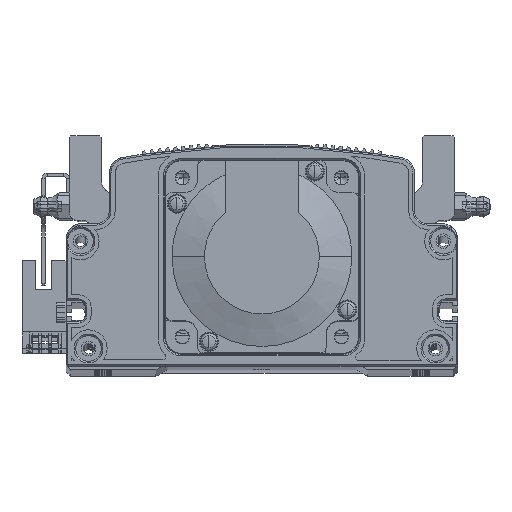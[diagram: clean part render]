
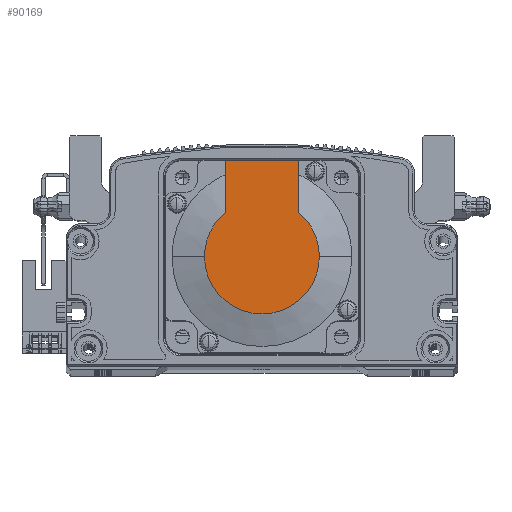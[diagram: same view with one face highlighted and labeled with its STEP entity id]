
A CAD part, top view. The second image highlights one B-rep face of the part: STEP entity #90169.
In plain terms, the highlighted planar face has unit normal (0, 0, 1) as drawn and (-1, 0, 0) by its records, which use the part's own axes.
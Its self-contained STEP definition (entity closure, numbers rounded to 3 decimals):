
#535 = CARTESIAN_POINT ( 'NONE',  ( -118.5, 0., 0. ) ) ;
#6506 = EDGE_CURVE ( 'NONE', #36086, #82748, #66569, .T. ) ;
#6669 = DIRECTION ( 'NONE',  ( -1., 0., 0. ) ) ;
#8432 = LINE ( 'NONE', #67489, #29106 ) ;
#8839 = ORIENTED_EDGE ( 'NONE', *, *, #64449, .F. ) ;
#9079 = CARTESIAN_POINT ( 'NONE',  ( -118.5, -8.941, 0. ) ) ;
#10084 = ORIENTED_EDGE ( 'NONE', *, *, #19612, .T. ) ;
#10475 = CARTESIAN_POINT ( 'NONE',  ( -118.5, 0., 0. ) ) ;
#10772 = DIRECTION ( 'NONE',  ( 0., 0., -1. ) ) ;
#11546 = VECTOR ( 'NONE', #47985, 1000. ) ;
#11878 = CARTESIAN_POINT ( 'NONE',  ( -118.5, 0., 17.881 ) ) ;
#13517 = ORIENTED_EDGE ( 'NONE', *, *, #28532, .T. ) ;
#18252 = ORIENTED_EDGE ( 'NONE', *, *, #6506, .F. ) ;
#18262 = CARTESIAN_POINT ( 'NONE',  ( -118.5, 0., -17.881 ) ) ;
#19612 = EDGE_CURVE ( 'NONE', #53247, #35662, #57351, .T. ) ;
#23748 = DIRECTION ( 'NONE',  ( 0., -1., 0. ) ) ;
#23932 = EDGE_CURVE ( 'NONE', #69134, #53247, #73124, .T. ) ;
#25282 = AXIS2_PLACEMENT_3D ( 'NONE', #535, #59414, #58767 ) ;
#28532 = EDGE_CURVE ( 'NONE', #47103, #69134, #54361, .T. ) ;
#29106 = VECTOR ( 'NONE', #23748, 1000. ) ;
#30680 = CARTESIAN_POINT ( 'NONE',  ( -118.5, 30., -11.45 ) ) ;
#31464 = PLANE ( 'NONE',  #65689 ) ;
#31987 = AXIS2_PLACEMENT_3D ( 'NONE', #10475, #54232, #10772 ) ;
#32667 = ORIENTED_EDGE ( 'NONE', *, *, #23932, .T. ) ;
#32894 = CARTESIAN_POINT ( 'NONE',  ( -118.5, 30., 25. ) ) ;
#35662 = VERTEX_POINT ( 'NONE', #51182 ) ;
#36086 = VERTEX_POINT ( 'NONE', #30680 ) ;
#47103 = VERTEX_POINT ( 'NONE', #73291 ) ;
#47873 = DIRECTION ( 'NONE',  ( 0., 0., 1. ) ) ;
#47985 = DIRECTION ( 'NONE',  ( 0., -1., 0. ) ) ;
#51182 = CARTESIAN_POINT ( 'NONE',  ( -118.5, 13.735, 11.45 ) ) ;
#53198 = EDGE_CURVE ( 'NONE', #36086, #47103, #77829, .T. ) ;
#53247 = VERTEX_POINT ( 'NONE', #11878 ) ;
#53943 = VECTOR ( 'NONE', #47873, 1000. ) ;
#54232 = DIRECTION ( 'NONE',  ( -1., 0., 0. ) ) ;
#54361 = CIRCLE ( 'NONE', #31987, 17.881 ) ;
#57351 = CIRCLE ( 'NONE', #25282, 17.881 ) ;
#58767 = DIRECTION ( 'NONE',  ( 0., 0., -1. ) ) ;
#59414 = DIRECTION ( 'NONE',  ( -1., 0., 0. ) ) ;
#61758 = CARTESIAN_POINT ( 'NONE',  ( -118.5, -8.941, -11.45 ) ) ;
#64449 = EDGE_CURVE ( 'NONE', #82748, #35662, #8432, .T. ) ;
#65689 = AXIS2_PLACEMENT_3D ( 'NONE', #9079, #74943, #82597 ) ;
#66569 = LINE ( 'NONE', #32894, #53943 ) ;
#67489 = CARTESIAN_POINT ( 'NONE',  ( -118.5, 0., 11.45 ) ) ;
#69134 = VERTEX_POINT ( 'NONE', #18262 ) ;
#71331 = DIRECTION ( 'NONE',  ( 0., 0., -1. ) ) ;
#73124 = CIRCLE ( 'NONE', #85557, 17.881 ) ;
#73291 = CARTESIAN_POINT ( 'NONE',  ( -118.5, 13.735, -11.45 ) ) ;
#73326 = ORIENTED_EDGE ( 'NONE', *, *, #53198, .T. ) ;
#74943 = DIRECTION ( 'NONE',  ( -1., 0., 0. ) ) ;
#75400 = CARTESIAN_POINT ( 'NONE',  ( -118.5, 30., 11.45 ) ) ;
#77829 = LINE ( 'NONE', #61758, #11546 ) ;
#78660 = CARTESIAN_POINT ( 'NONE',  ( -118.5, 0., 0. ) ) ;
#82051 = EDGE_LOOP ( 'NONE', ( #73326, #13517, #32667, #10084, #8839, #18252 ) ) ;
#82597 = DIRECTION ( 'NONE',  ( 0., 0., 1. ) ) ;
#82748 = VERTEX_POINT ( 'NONE', #75400 ) ;
#85557 = AXIS2_PLACEMENT_3D ( 'NONE', #78660, #6669, #71331 ) ;
#89412 = FACE_OUTER_BOUND ( 'NONE', #82051, .T. ) ;
#90169 = ADVANCED_FACE ( 'NONE', ( #89412 ), #31464, .T. ) ;
